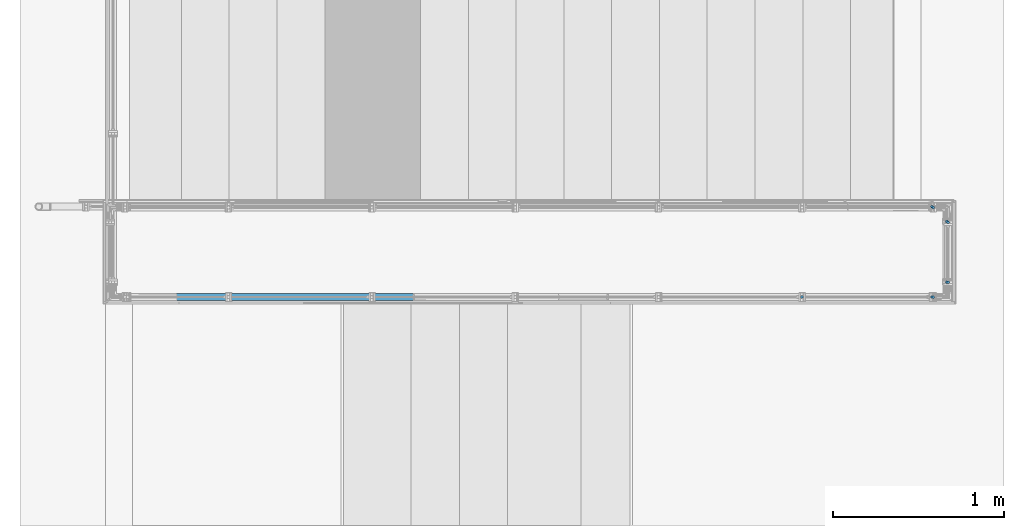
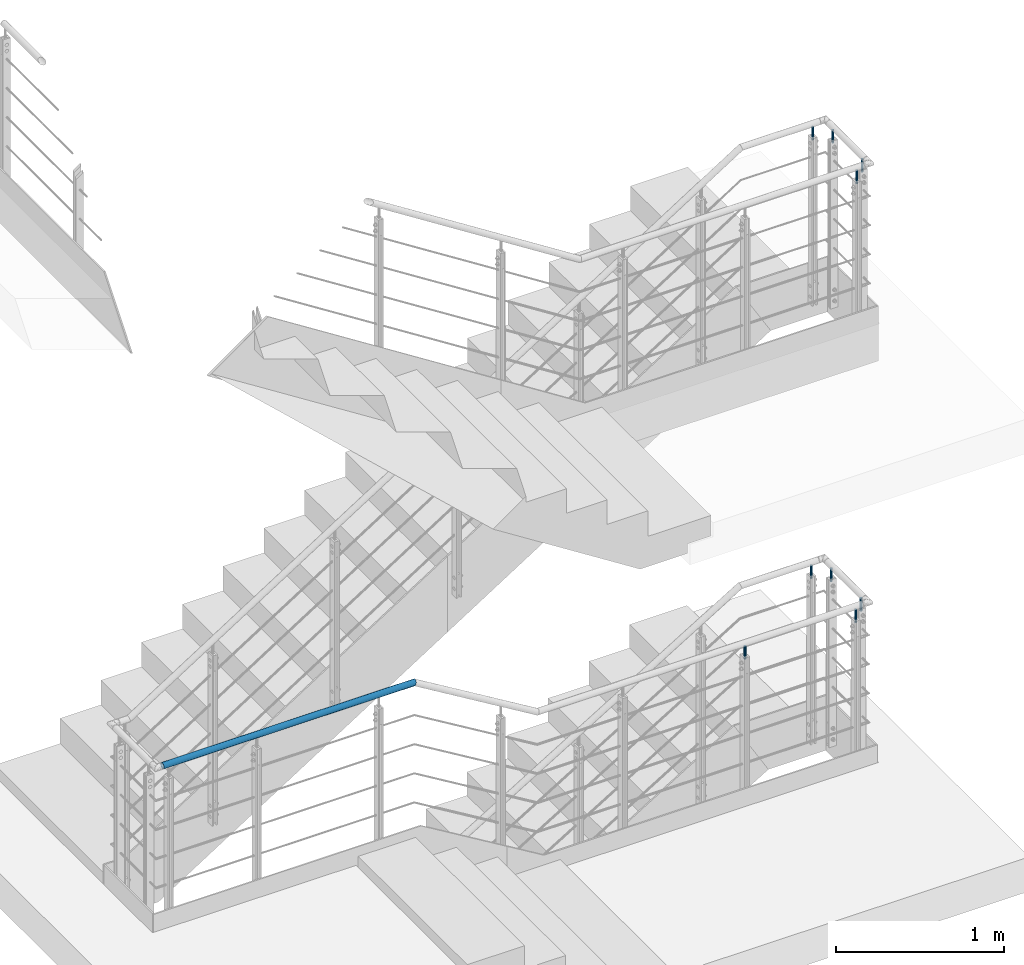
# One storey, part 11 of 98: 9 columns, 1 beam.
"""IFC2X3 building model written with IfcOpenShell, lengths in millimetres."""

import ifcopenshell
import ifcopenshell.guid

model = None  # the IFC model being written
_history = None  # IfcOwnerHistory: only IFC2X3 demands one
_inside = {}  # id of a spatial element -> (the spatial element, [elements in it])
_under = {}  # id of a project, library or spatial element -> (it, [spatial elements below it])
_declared = {}  # id of a project -> (the project, [libraries it declares])
_typed = {}  # id of a type object -> (the type object, [elements of that type])
_made_of = {}  # id of a material, layer set ... -> (it, [elements and type objects made of it])


def new_model(schema):
    """Start an empty IFC model of exactly this schema.

    Asked for "IFC4X3", IfcOpenShell would pick the latest addendum, in which some entities
    have other attributes; the version numbers below select the first issue.
    IFC2X3 requires an IfcOwnerHistory on every rooted entity: one is made here for all.
    """
    global model, _history
    if schema == "IFC4X3":
        model = ifcopenshell.file(schema_version=(4, 3, 0, 0))
    else:
        model = ifcopenshell.file(schema=schema)
    _inside.clear()
    _under.clear()
    _declared.clear()
    _typed.clear()
    _made_of.clear()
    _history = None
    if model.schema == "IFC2X3":
        org = make("IfcOrganization", Name="unknown")
        user = make(
            "IfcPersonAndOrganization",
            ThePerson=make("IfcPerson", FamilyName="unknown"),
            TheOrganization=org,
        )
        app = make(
            "IfcApplication",
            ApplicationDeveloper=org,
            Version="unknown",
            ApplicationFullName="unknown",
            ApplicationIdentifier="unknown",
        )
        _history = make(
            "IfcOwnerHistory",
            OwningUser=user,
            OwningApplication=app,
            ChangeAction="ADDED",
            CreationDate=0,
        )
    return model


def make(cls, **values):
    """One entity of the class cls with the attributes given. An attribute that is None is left unset."""
    return model.create_entity(
        cls, **{name: value for name, value in values.items() if value is not None}
    )


def entity(cls, *values):
    """Any entity or typed value of the class cls, its attributes in the order of the schema. None: left unset."""
    e = model.create_entity(cls)
    for i, value in enumerate(values):
        if value is not None:
            e[i] = value
    return e


def rooted(cls, **values):
    """An entity with a GlobalId (a new one), such as an element, a storey or a relation."""
    return make(cls, GlobalId=ifcopenshell.guid.new(), OwnerHistory=_history, **values)


def si_unit(unit_type, name, prefix=None):
    """IfcSIUnit, for example si_unit("LENGTHUNIT", "METRE", prefix="MILLI")."""
    return make("IfcSIUnit", UnitType=unit_type, Prefix=prefix, Name=name)


def converted_unit(unit_type, name, factor, base, dimensions=None, offset=None):
    """IfcConversionBasedUnit, such as the inch: factor (a typed value) times the base unit."""
    return make(
        "IfcConversionBasedUnit"
        if offset is None
        else "IfcConversionBasedUnitWithOffset",
        ConversionOffset=offset,
        Dimensions=None
        if dimensions is None
        else entity("IfcDimensionalExponents", *dimensions),
        UnitType=unit_type,
        Name=name,
        ConversionFactor=make(
            "IfcMeasureWithUnit", ValueComponent=factor, UnitComponent=base
        ),
    )


def assignment(units):
    """IfcUnitAssignment: the units of a project."""
    return None if units is None else make("IfcUnitAssignment", Units=units)


def point(xyz):
    """IfcCartesianPoint."""
    return None if xyz is None else make("IfcCartesianPoint", Coordinates=xyz)


def direction(xyz):
    """IfcDirection."""
    return None if xyz is None else make("IfcDirection", DirectionRatios=xyz)


def frame(location, z_axis=None, x_axis=None):
    """IfcAxis2Placement3D, a coordinate frame: its origin and axes. An axis left out is left unset."""
    return make(
        "IfcAxis2Placement3D",
        Location=point(location),
        Axis=direction(z_axis),
        RefDirection=direction(x_axis),
    )


def frame_2d(location, x_axis=None):
    """IfcAxis2Placement2D, a coordinate frame in the plane: its origin and x axis."""
    return make(
        "IfcAxis2Placement2D", Location=point(location), RefDirection=direction(x_axis)
    )


def origin():
    """The frame at (0, 0, 0) with its axes left unset."""
    return frame((0.0, 0.0, 0.0))


def origin_with_axes():
    """The frame at (0, 0, 0) with the z axis (0, 0, 1) and the x axis (1, 0, 0) written out."""
    return frame((0.0, 0.0, 0.0), z_axis=(0.0, 0.0, 1.0), x_axis=(1.0, 0.0, 0.0))


def origin_2d():
    """The frame at (0, 0) in the plane with its x axis left unset."""
    return frame_2d((0.0, 0.0))


def place(relative_to, where):
    """IfcLocalPlacement: puts the frame where relative to a parent placement (None: the world)."""
    return make(
        "IfcLocalPlacement", PlacementRelTo=relative_to, RelativePlacement=where
    )


def context(
    kind, dimensions, precision=None, world=None, true_north=None, identifier=None
):
    """IfcGeometricRepresentationContext, for example the 3D "Model" context."""
    return make(
        "IfcGeometricRepresentationContext",
        ContextIdentifier=identifier,
        ContextType=kind,
        CoordinateSpaceDimension=dimensions,
        Precision=precision,
        WorldCoordinateSystem=world,
        TrueNorth=true_north,
    )


def project(units=None, contexts=None):
    """IfcProject with its units and contexts."""
    return rooted(
        "IfcProject",
        Name="project",
        RepresentationContexts=contexts,
        UnitsInContext=assignment(units),
    )


def spatial(cls, under=None, at=None, **own):
    """A site, building, storey or space (cls), placed at a placement, below another one or the project."""
    s = rooted(cls, ObjectPlacement=at, **own)
    if under is not None:
        _under.setdefault(under.id(), (under, []))[1].append(s)
    return s


def profile(cls, at=None, kind="AREA", **sizes):
    """A parametric profile (cls). Its sizes go by their IFC names, for example OverallWidth=200.0."""
    return make(cls, ProfileType=kind, Position=at, **sizes)


def circle(**sizes):
    """IfcCircleProfileDef."""
    return profile("IfcCircleProfileDef", **sizes)


def hollow_circle(**sizes):
    """IfcCircleHollowProfileDef."""
    return profile("IfcCircleHollowProfileDef", **sizes)


def extrude(swept, where, along, depth):
    """IfcExtrudedAreaSolid: the profile swept, set in the frame where, extruded along a direction by depth."""
    return make(
        "IfcExtrudedAreaSolid",
        SweptArea=swept,
        Position=where,
        ExtrudedDirection=direction(along),
        Depth=depth,
    )


def clip(a, b, op="DIFFERENCE"):
    """IfcBooleanClippingResult: the solid a cut by the half space b."""
    return make(
        "IfcBooleanClippingResult", Operator=op, FirstOperand=a, SecondOperand=b
    )


def halfspace(plane, agree):
    """IfcHalfSpaceSolid: all space on one side of the plane z = 0 of the frame plane."""
    return make(
        "IfcHalfSpaceSolid",
        BaseSurface=make("IfcPlane", Position=plane),
        AgreementFlag=agree,
    )


def shape(context_of_items, identifier, shape_type, items):
    """IfcShapeRepresentation: the items that make up one representation, for example the "Body"."""
    return make(
        "IfcShapeRepresentation",
        ContextOfItems=context_of_items,
        RepresentationIdentifier=identifier,
        RepresentationType=shape_type,
        Items=items,
    )


def material(Name=None, Category=None):
    """IfcMaterial."""
    return make("IfcMaterial", Name=Name, Category=Category)


def made_of(thing, what):
    """Note that an element or type object is made of a material, layer set ...; save() writes the relation."""
    if what is not None:
        _made_of.setdefault(what.id(), (what, []))[1].append(thing)
    return thing


def element(
    cls,
    number,
    at=None,
    inside=None,
    cuts=None,
    type_object=None,
    material=None,
    context=None,
    identifier="Body",
    shape_type=None,
    held_by="IfcProductDefinitionShape",
    body=None,
    shapes=None,
    **own,
):
    """One element of the class cls, such as IfcWall. Its Tag is "e" and its number.

    at: its placement. inside: the storey or other place that contains it. cuts: it is an
    opening in that element (IfcRelVoidsElement). A single representation is given by context,
    identifier, shape_type and body (its items); several are given by shapes. held_by: the class
    of the entity that holds the representations. save() writes the other relations.
    """
    e = rooted(cls, Tag="e%d" % number, ObjectPlacement=at, **own)
    if body is not None:
        shapes = [shape(context, identifier, shape_type, body)]
    if shapes is not None:
        e.Representation = make(held_by, Representations=shapes)
    if inside is not None:
        _inside.setdefault(inside.id(), (inside, []))[1].append(e)
    if cuts is not None:
        rooted(
            "IfcRelVoidsElement", RelatingBuildingElement=cuts, RelatedOpeningElement=e
        )
    if type_object is not None:
        _typed.setdefault(type_object.id(), (type_object, []))[1].append(e)
    return made_of(e, material)


def aggregate(whole, parts):
    """IfcRelAggregates: a whole, such as a stair, and the parts it consists of."""
    return rooted("IfcRelAggregates", RelatingObject=whole, RelatedObjects=parts)


def save(model, path):
    """Write the relations noted so far, then the file.

    IfcRelAggregates (storeys below a building ...), IfcRelContainedInSpatialStructure (elements
    in a storey), IfcRelDefinesByType, IfcRelAssociatesMaterial and IfcRelDeclares: one each for
    every whole, place, type object, material and project.
    """
    for whole, parts in _under.values():
        aggregate(whole, parts)
    for where, things in _inside.values():
        rooted(
            "IfcRelContainedInSpatialStructure",
            RelatedElements=things,
            RelatingStructure=where,
        )
    for kind, things in _typed.values():
        rooted("IfcRelDefinesByType", RelatedObjects=things, RelatingType=kind)
    for what, things in _made_of.values():
        rooted("IfcRelAssociatesMaterial", RelatedObjects=things, RelatingMaterial=what)
    for by, libraries in _declared.values():
        rooted("IfcRelDeclares", RelatingContext=by, RelatedDefinitions=libraries)
    model.write(path)


model = new_model("IFC2X3")

# Units and contexts
model_context = context("Model", 3, precision=1e-09, world=origin_with_axes())
ifc_project = project(units=[si_unit("LENGTHUNIT", "METRE", prefix="MILLI"), si_unit("AREAUNIT", "SQUARE_METRE"), si_unit("VOLUMEUNIT", "CUBIC_METRE"), converted_unit("PLANEANGLEUNIT", "DEGREE", entity("IfcPlaneAngleMeasure", 0.01745329), si_unit("PLANEANGLEUNIT", "RADIAN"), dimensions=[0, 0, 0, 0, 0, 0, 0])], contexts=[model_context])

# Site, building, storey
site_placement = place(None, origin_with_axes())
site = spatial("IfcSite", under=ifc_project, at=site_placement, Name="Maybachstra?e 2, 71563 Affalterbach", CompositionType="ELEMENT")
building_placement = place(site_placement, origin_with_axes())
building = spatial("IfcBuilding", under=site, at=building_placement, Name="Struktur 1", CompositionType="ELEMENT")
storey_placement = place(building_placement, origin_with_axes())
storey = spatial("IfcBuildingStorey", under=building, at=storey_placement, Name="Default Storey", CompositionType="ELEMENT", Elevation=0.0)

# Columns
ifc_material = material(Name="1.4301")
for number, where, z_axis, x_axis in (
    (1, (12144.029157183, -570.0, 7140.1), (0.0, 0.0, 1.0), (-1.0, 0.0, 0.0)),
    (2, (11375.029157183, -569.0, 3947.6), (0.0, 0.0, 1.0), (-1.0, 0.0, 0.0)),
    (3, (12137.029157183, -569.0, 3947.6), (0.0, 0.0, 1.0), (-1.0, 0.0, 0.0)),
):
    element("IfcColumn", number, at=place(None, frame(where, z_axis=z_axis, x_axis=x_axis)), inside=storey, material=ifc_material, Name="-", ObjectType="-", context=model_context, shape_type="SweptSolid", body=[
        extrude(circle(Radius=8.0, at=origin_2d()), origin(), (0.0, 0.0, -1.0), 95.0),
    ])
for number, where, z_axis, x_axis in (
    (4, (12144.029157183, -45.0, 7140.1), (0.0, 0.0, -1.0), (1.0, 0.0, 0.0)),
    (5, (12137.029157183, -40.0, 3947.6), (0.0, 0.0, -1.0), (1.0, 0.0, 0.0)),
):
    element("IfcColumn", number, at=place(None, frame(where, z_axis=z_axis, x_axis=x_axis)), inside=storey, material=ifc_material, Name="-", ObjectType="-", context=model_context, shape_type="SweptSolid", body=[
        extrude(circle(Radius=8.0, at=origin_2d()), origin(), (0.0, 0.0, 1.0), 95.0),
    ])
for number, where, z_axis, x_axis in (
    (6, (12224.032157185, -482.0, 3947.6), (0.0, 0.0, 1.0), (0.0, -1.0, 0.0)),
    (7, (12224.032157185, -127.0, 3947.6), (0.0, 0.0, 1.0), (0.0, -1.0, 0.0)),
    (8, (12231.032157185, -483.0, 7140.1), (0.0, 0.0, 1.0), (0.0, -1.0, 0.0)),
    (9, (12231.032157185, -132.0, 7140.1), (0.0, 0.0, 1.0), (0.0, -1.0, 0.0)),
):
    element("IfcColumn", number, at=place(None, frame(where, z_axis=z_axis, x_axis=x_axis)), inside=storey, material=ifc_material, Name="-", ObjectType="-", context=model_context, shape_type="SweptSolid", body=[
        extrude(circle(Radius=8.0, at=origin_2d()), origin(), (0.0, 0.0, -1.0), 95.0),
    ])

# Beam
beam_placement = place(None, frame((7364.828157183, -569.0, 4478.8), z_axis=(-1.0, 0.0, 0.0), x_axis=(0.0, 0.0, -1.0)))
element("IfcBeam", 10, at=beam_placement, inside=storey, material=ifc_material, Name="-", ObjectType="-", context=model_context, shape_type="Clipping", body=[
    clip(extrude(hollow_circle(Radius=21.2, WallThickness=3.0, at=origin_2d()), origin(), (0.0, 0.0, -1.0), 1765.424294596), halfspace(frame((6506.127190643, -569.0, 75.097195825), z_axis=(-0.267938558, 0.0, 0.963436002), x_axis=(0.0, 1.0, 0.0)), True)),
])

save(model, "model.ifc")
